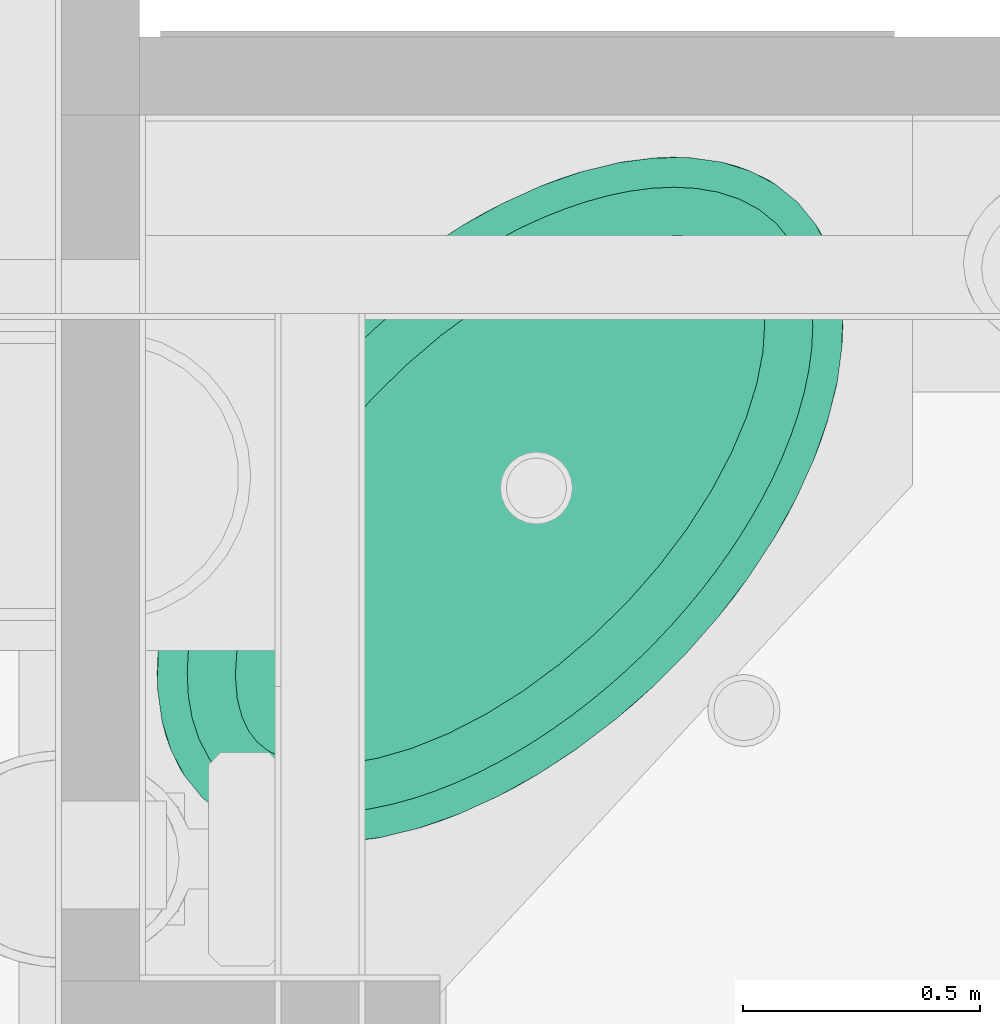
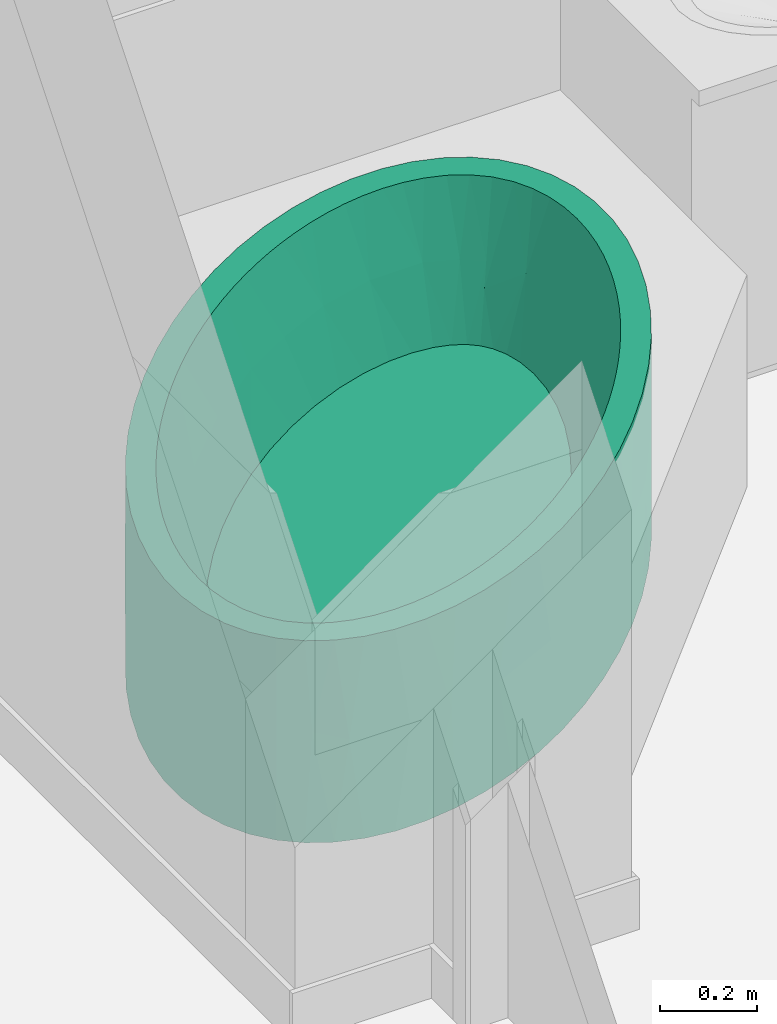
# One storey, part 51 of 81: 1 flow terminal.
"""IFC2X3 building model written with IfcOpenShell, lengths in feet."""

from ifc_helpers import new_model, entity, si_unit, converted_unit, derived_unit, direction, frame, origin, place, context, subcontext, project, spatial, faceted_brep, source, transform, mapped, material, type_object, type_shapes, element, save


model = new_model("IFC2X3")

# Units and contexts
model_context = context("Model", 3, precision=0.0001, world=origin(), true_north=direction((6.12303176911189e-17, 1.0)))
body_context = subcontext(model_context, "Body", "Model", "MODEL_VIEW")
ifc_project = project(units=[converted_unit("LENGTHUNIT", "FOOT", entity("IfcRatioMeasure", 0.3048), si_unit("LENGTHUNIT", "METRE"), dimensions=[1, 0, 0, 0, 0, 0, 0]), converted_unit("AREAUNIT", "SQUARE FOOT", entity("IfcRatioMeasure", 0.09290304), si_unit("AREAUNIT", "SQUARE_METRE"), dimensions=[2, 0, 0, 0, 0, 0, 0]), converted_unit("VOLUMEUNIT", "CUBIC FOOT", entity("IfcRatioMeasure", 0.028316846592), si_unit("VOLUMEUNIT", "CUBIC_METRE"), dimensions=[3, 0, 0, 0, 0, 0, 0]), converted_unit("PLANEANGLEUNIT", "DEGREE", entity("IfcRatioMeasure", 0.0174532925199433), si_unit("PLANEANGLEUNIT", "RADIAN"), dimensions=[0, 0, 0, 0, 0, 0, 0]), si_unit("MASSUNIT", "GRAM", prefix="KILO"), derived_unit("MASSDENSITYUNIT", [(si_unit("MASSUNIT", "GRAM", prefix="KILO"), 1), (si_unit("LENGTHUNIT", "METRE"), -3)]), derived_unit("MOMENTOFINERTIAUNIT", [(si_unit("LENGTHUNIT", "METRE"), 4)]), si_unit("TIMEUNIT", "SECOND"), si_unit("FREQUENCYUNIT", "HERTZ"), si_unit("THERMODYNAMICTEMPERATUREUNIT", "DEGREE_CELSIUS"), derived_unit("THERMALTRANSMITTANCEUNIT", [(si_unit("MASSUNIT", "GRAM", prefix="KILO"), 1), (si_unit("THERMODYNAMICTEMPERATUREUNIT", "KELVIN"), -1), (si_unit("TIMEUNIT", "SECOND"), -3)]), derived_unit("VOLUMETRICFLOWRATEUNIT", [(si_unit("LENGTHUNIT", "METRE"), 3), (si_unit("TIMEUNIT", "SECOND"), -1)]), si_unit("ELECTRICCURRENTUNIT", "AMPERE"), si_unit("ELECTRICVOLTAGEUNIT", "VOLT"), si_unit("POWERUNIT", "WATT"), si_unit("FORCEUNIT", "NEWTON"), si_unit("ILLUMINANCEUNIT", "LUX"), si_unit("LUMINOUSFLUXUNIT", "LUMEN"), si_unit("LUMINOUSINTENSITYUNIT", "CANDELA"), derived_unit("USERDEFINED", [(si_unit("MASSUNIT", "GRAM", prefix="KILO"), -1), (si_unit("LENGTHUNIT", "METRE"), -2), (si_unit("TIMEUNIT", "SECOND"), 3), (si_unit("LUMINOUSFLUXUNIT", "LUMEN"), 1)]), derived_unit("LINEARVELOCITYUNIT", [(si_unit("LENGTHUNIT", "METRE"), 1), (si_unit("TIMEUNIT", "SECOND"), -1)]), si_unit("PRESSUREUNIT", "PASCAL"), derived_unit("USERDEFINED", [(si_unit("LENGTHUNIT", "METRE"), -2), (si_unit("MASSUNIT", "GRAM", prefix="KILO"), 1), (si_unit("TIMEUNIT", "SECOND"), -2)]), derived_unit("LINEARFORCEUNIT", [(si_unit("MASSUNIT", "GRAM", prefix="KILO"), 1), (si_unit("LENGTHUNIT", "METRE"), 1), (si_unit("TIMEUNIT", "SECOND"), -2), (si_unit("LENGTHUNIT", "METRE"), -1)]), derived_unit("PLANARFORCEUNIT", [(si_unit("MASSUNIT", "GRAM", prefix="KILO"), 1), (si_unit("LENGTHUNIT", "METRE"), 1), (si_unit("TIMEUNIT", "SECOND"), -2), (si_unit("LENGTHUNIT", "METRE"), -2)])], contexts=[model_context])

# Site, building, storey
site_placement = place(None, origin())
site = spatial("IfcSite", under=ifc_project, at=site_placement, Name="Default", CompositionType="ELEMENT")
building_placement = place(site_placement, origin())
building = spatial("IfcBuilding", under=site, at=building_placement, CompositionType="ELEMENT")
storey_placement = place(building_placement, origin())
storey = spatial("IfcBuildingStorey", under=building, at=storey_placement, Name="First floor", CompositionType="ELEMENT", Elevation=0.0)

# Flow terminal
ifc_material = material(Name="Default New Material")
distribution_element_type = type_object("IfcDistributionElementType", Name="Plumbing Fixtures 7:Plumbing Fixtures 7", material=ifc_material)
shared_shape = source(origin(), body_context, "Body", "Brep", [
    faceted_brep([(0.55500130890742, 2.3566747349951, 1.66666666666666), (0.478171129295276, 2.64242724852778, 1.66666666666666), (0.325353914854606, 2.36659536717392, 1.66666666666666), (0.484494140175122, 2.2182767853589, 1.66666666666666), (0.631162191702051, 2.49222127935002, 1.66666666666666), (0.712476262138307, 2.62468866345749, 1.66666666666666), (0.656669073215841, 2.91467200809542, 1.66666666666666), (0.798436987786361, 2.75385819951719, 1.66666666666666), (0.888985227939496, 2.88010304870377, 1.66666666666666), (0.858433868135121, 3.17964800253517, 1.66666666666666), (0.983828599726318, 3.00329298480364, 1.66666666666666), (1.08256403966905, 3.12310538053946, 1.66666666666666), (1.08073699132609, 3.43377188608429, 1.66666666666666), (1.18518950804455, 3.23971485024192, 1.66666666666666), (1.29151107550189, 3.35301822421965, 1.66666666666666), (1.32057217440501, 3.67360706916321, 1.66666666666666), (1.40133845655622, 3.46285847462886, 1.66666666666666), (1.51464130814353, 3.56917788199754, 1.66666666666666), (1.63125388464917, 3.67177528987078, 1.66666666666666), (1.57469605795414, 3.89591019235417, 1.66666666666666), (1.75109747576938, 3.77052911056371, 1.66666666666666), (1.87425888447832, 3.86537833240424, 1.66666666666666), (1.83967205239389, 4.09767498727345, 1.66666666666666), (2.000481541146, 3.9559257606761, 1.66666666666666), (2.12965992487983, 4.04187701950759, 1.66666666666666), (2.11191681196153, 4.27617293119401, 1.66666666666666), (2.26212600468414, 4.12318575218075, 1.66666666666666), (2.39766086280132, 4.19935060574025, 1.66666666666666), (2.38774869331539, 4.42899014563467, 1.66666666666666), (2.53607463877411, 4.26986413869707, 1.66666666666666), (2.67733391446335, 4.33423331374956, 1.66666666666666), (2.66343754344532, 4.5540600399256, 1.66666666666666), (2.82141352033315, 4.39183822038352, 1.66666666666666), (2.93525514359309, 4.64969125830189, 1.66666666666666), (2.96827123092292, 4.44195119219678, 1.66666666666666), (3.11790773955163, 4.48363757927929, 1.66666666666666), (3.1995256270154, 4.71459055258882, 1.66666666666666), (3.26983301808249, 4.51563718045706, 1.66666666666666), (3.42389508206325, 4.53647856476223, 1.66666666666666), (3.45267518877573, 4.74788027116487, 1.66666666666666), (3.57919084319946, 4.54419349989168, 1.66666666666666), (3.69128041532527, 4.74911022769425, 1.66666666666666), (3.73430835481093, 4.53638746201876, 1.66666666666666), (3.91211458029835, 4.71826378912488, 1.66666666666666), (3.88694604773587, 4.51025185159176, 1.66666666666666), (4.11219128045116, 4.65575810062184, 1.66666666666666), (4.03483991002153, 4.46229461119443, 1.66666666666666), (4.17191834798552, 4.38998352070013, 1.66666666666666), (4.2888048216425, 4.56243844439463, 1.66666666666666), (4.29225289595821, 4.2922528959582, 1.66666666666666), (4.43956680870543, 4.43956680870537, 1.66666666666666), (4.56243844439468, 4.28880482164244, 1.66666666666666), (4.38996880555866, 4.17190740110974, 1.66666666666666), (4.65575810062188, 4.1121912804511, 1.66666666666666), (4.46229639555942, 4.03484242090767, 1.66666666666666), (4.51025575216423, 3.88694372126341, 1.66666666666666), (4.71826378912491, 3.91211458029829, 1.66666666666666), (4.53639235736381, 3.73430752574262, 1.66666666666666), (4.74911022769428, 3.6912804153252, 1.66666666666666), (4.54419523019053, 3.57918839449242, 1.66666666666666), (4.74788027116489, 3.45267518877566, 1.66666666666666), (4.53648396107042, 3.42389276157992, 1.66666666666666), (4.71459055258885, 3.19952562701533, 1.66666666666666), (4.5156442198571, 3.26983052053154, 1.66666666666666), (4.48361680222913, 3.11791628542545, 1.66666666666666), (4.64969125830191, 2.93525514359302, 1.66666666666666), (4.44191429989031, 2.96827598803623, 1.66666666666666), (4.39183044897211, 2.82141340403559, 1.66666666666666), (4.55406003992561, 2.66343754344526, 1.66666666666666), (4.33423016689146, 2.67732903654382, 1.66666666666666), (4.42899014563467, 2.38774869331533, 1.66666666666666), (4.26985338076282, 2.53607443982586, 1.66666666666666), (4.19933864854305, 2.39766166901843, 1.66666666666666), (4.27617293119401, 2.11191681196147, 1.66666666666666), (4.12318183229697, 2.26212271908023, 1.66666666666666), (4.04186936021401, 2.12965783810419, 1.66666666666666), (4.09767498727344, 1.83967205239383, 1.66666666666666), (3.95590725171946, 2.00048611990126, 1.66666666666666), (3.86537091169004, 1.87425725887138, 1.66666666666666), (3.89591019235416, 1.57469605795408, 1.66666666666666), (3.77053881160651, 1.75108038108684, 1.66666666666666), (3.67178190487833, 1.63124089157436, 1.66666666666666), (3.67360706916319, 1.32057217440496, 1.66666666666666), (3.56916730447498, 1.51464324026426, 1.66666666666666), (3.46284724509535, 1.40134055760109, 1.66666666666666), (3.35302019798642, 1.29149972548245, 1.66666666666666), (3.43377188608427, 1.08073699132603, 1.66666666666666), (3.23971700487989, 1.18517912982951, 1.66666666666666), (3.12309260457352, 1.08257083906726, 1.66666666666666), (3.17964800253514, 0.858433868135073, 1.66666666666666), (3.0032769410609, 0.983839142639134, 1.66666666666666), (2.88009923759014, 0.888976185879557, 1.66666666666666), (2.91467200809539, 0.656669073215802, 1.66666666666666), (2.75386462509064, 0.798419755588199, 1.66666666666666), (2.62468642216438, 0.712468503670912, 1.66666666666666), (2.64242724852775, 0.478171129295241, 1.66666666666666), (2.49221763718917, 0.631158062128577, 1.66666666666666), (2.35667490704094, 0.554989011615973, 1.66666666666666), (2.36659536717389, 0.325353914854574, 1.66666666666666), (2.21827703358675, 0.484483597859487, 1.66666666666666), (2.07707582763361, 0.420138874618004, 1.66666666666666), (2.09090651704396, 0.20028402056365, 1.66666666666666), (1.93308617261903, 0.362563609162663, 1.66666666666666), (1.8190889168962, 0.104652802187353, 1.66666666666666), (1.78590311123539, 0.312340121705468, 1.66666666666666), (1.6361883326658, 0.27064557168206, 1.66666666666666), (1.55481843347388, 0.0397535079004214, 1.66666666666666), (1.48419061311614, 0.23865097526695, 1.66666666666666), (1.33036493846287, 0.217857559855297, 1.66666666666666), (1.30166887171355, 0.00646378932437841, 1.66666666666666), (1.17550674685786, 0.210151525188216, 1.66666666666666), (1.06306364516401, 0.00523383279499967, 1.66666666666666), (1.02011564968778, 0.217948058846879, 1.66666666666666), (0.842229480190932, 0.0360802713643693, 1.66666666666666), (0.867029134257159, 0.244181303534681, 1.66666666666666), (0.642152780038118, 0.0985859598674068, 1.66666666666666), (0.719651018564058, 0.291988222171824, 1.66666666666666), (0.582373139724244, 0.364394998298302, 1.66666666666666), (0.46553923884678, 0.191905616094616, 1.66666666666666), (0.462091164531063, 0.462091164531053, 1.66666666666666), (0.31477725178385, 0.314777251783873, 1.66666666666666), (0.191905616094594, 0.465539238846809, 1.66666666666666), (0.364407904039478, 0.58238687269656, 1.66666666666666), (0.0985859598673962, 0.642152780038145, 1.66666666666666), (0.291984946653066, 0.719652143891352, 1.66666666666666), (0.24417706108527, 0.867033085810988, 1.66666666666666), (0.036080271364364, 0.842229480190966, 1.66666666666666), (0.217943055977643, 1.02011753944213, 1.66666666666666), (0.00523383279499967, 1.06306364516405, 1.66666666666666), (0.210149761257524, 1.17550696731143, 1.66666666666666), (0.00646378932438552, 1.30166887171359, 1.66666666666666), (0.217851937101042, 1.33036491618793, 1.66666666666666), (0.0397535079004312, 1.55481843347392, 1.66666666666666), (0.238643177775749, 1.4841887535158, 1.66666666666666), (0.270666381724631, 1.63618020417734, 1.66666666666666), (0.104652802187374, 1.81908891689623, 1.66666666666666), (0.31237668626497, 1.78589722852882, 1.66666666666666), (0.362571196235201, 1.93308587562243, 1.66666666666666), (0.200284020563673, 2.090906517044, 1.66666666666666), (0.420141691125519, 2.07707992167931, 1.66666666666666), (2.36659536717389, 0.325353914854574, 0.0), (2.09090651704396, 0.20028402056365, 0.0), (1.8190889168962, 0.104652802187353, 0.0), (1.55481843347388, 0.0397535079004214, 0.0), (1.30166887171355, 0.00646378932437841, 0.0), (1.06306364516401, 0.00523383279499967, 0.0), (0.842229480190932, 0.0360802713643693, 0.0), (0.642152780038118, 0.0985859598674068, 0.0), (0.46553923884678, 0.191905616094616, 0.0), (0.314777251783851, 0.314777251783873, 0.0), (0.191905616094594, 0.465539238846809, 0.0), (0.0985859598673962, 0.642152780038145, 0.0), (0.036080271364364, 0.842229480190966, 0.0), (0.00523383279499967, 1.06306364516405, 0.0), (0.00646378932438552, 1.30166887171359, 0.0), (0.0397535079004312, 1.55481843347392, 0.0), (0.104652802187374, 1.81908891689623, 0.0), (0.200284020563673, 2.090906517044, 0.0), (0.325353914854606, 2.36659536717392, 0.0), (0.478171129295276, 2.64242724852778, 0.0), (0.656669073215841, 2.91467200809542, 0.0), (0.858433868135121, 3.17964800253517, 0.0), (1.08073699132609, 3.43377188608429, 0.0), (1.32057217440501, 3.67360706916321, 0.0), (1.57469605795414, 3.89591019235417, 0.0), (1.83967205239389, 4.09767498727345, 0.0), (2.11191681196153, 4.27617293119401, 0.0), (2.38774869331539, 4.42899014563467, 0.0), (2.66343754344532, 4.5540600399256, 0.0), (2.93525514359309, 4.64969125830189, 0.0), (3.1995256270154, 4.71459055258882, 0.0), (3.45267518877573, 4.74788027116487, 0.0), (3.69128041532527, 4.74911022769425, 0.0), (3.91211458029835, 4.71826378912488, 0.0), (4.11219128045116, 4.65575810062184, 0.0), (4.2888048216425, 4.56243844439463, 0.0), (4.43956680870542, 4.43956680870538, 0.0), (4.56243844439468, 4.28880482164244, 0.0), (4.65575810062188, 4.1121912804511, 0.0), (4.71826378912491, 3.91211458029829, 0.0), (4.74911022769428, 3.6912804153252, 0.0), (4.74788027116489, 3.45267518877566, 0.0), (4.71459055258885, 3.19952562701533, 0.0), (4.64969125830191, 2.93525514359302, 0.0), (4.55406003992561, 2.66343754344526, 0.0), (4.42899014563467, 2.38774869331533, 0.0), (4.27617293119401, 2.11191681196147, 0.0), (4.09767498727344, 1.83967205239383, 0.0), (3.89591019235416, 1.57469605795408, 0.0), (3.67360706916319, 1.32057217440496, 0.0), (3.43377188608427, 1.08073699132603, 0.0), (3.17964800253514, 0.858433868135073, 0.0), (2.91467200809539, 0.656669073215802, 0.0), (2.64242724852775, 0.478171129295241, 0.0), (4.01492361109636, 4.69092549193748, 0.833333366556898), (0.0464261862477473, 1.58866264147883, 0.833333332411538), (3.57400275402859, 4.75251395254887, 0.833333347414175), (4.43956680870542, 4.43956680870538, 0.976973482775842), (4.24673189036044, 4.58874636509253, 0.914896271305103), (3.23318130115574, 4.72072709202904, 0.833333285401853), (2.80006182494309, 4.60564588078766, 0.833333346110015), (2.249616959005, 4.3559292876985, 0.833333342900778), (1.44605882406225, 3.78714408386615, 0.833333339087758), (1.87477515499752, 4.12228117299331, 0.833333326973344), (1.11102970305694, 3.46587031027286, 0.83333333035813), (0.75480668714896, 3.04829544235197, 0.83333333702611), (0.39841477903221, 2.50472711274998, 0.833333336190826), (0.148698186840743, 1.95428225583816, 0.833333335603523), (0.165597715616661, 0.507612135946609, 0.914896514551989), (0.00183010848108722, 1.18034141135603, 0.83333333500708), (0.314777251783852, 0.314777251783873, 0.976973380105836), (0.0634186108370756, 0.739420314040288, 0.833333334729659), (0.739420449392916, 0.0634185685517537, 0.833333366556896), (4.70791787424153, 3.16568141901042, 0.83333333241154), (1.18034130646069, 0.00183010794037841, 0.833333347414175), (0.507612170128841, 0.165597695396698, 0.914896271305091), (1.52116275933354, 0.0336169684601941, 0.833333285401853), (1.95428223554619, 0.148698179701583, 0.833333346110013), (2.50472710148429, 0.398414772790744, 0.833333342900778), (3.30828523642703, 0.967199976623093, 0.833333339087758), (2.87956890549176, 0.632062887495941, 0.833333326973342), (3.64331435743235, 1.28847375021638, 0.83333333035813), (3.99953737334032, 1.70604861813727, 0.833333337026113), (4.35592928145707, 2.24961694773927, 0.833333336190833), (4.60564587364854, 2.80006180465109, 0.833333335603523), (4.58874634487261, 4.24673192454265, 0.914896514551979), (4.75251395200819, 3.57400264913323, 0.833333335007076), (4.6909254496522, 4.01492374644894, 0.833333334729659), (2.01639922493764, 0.757845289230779, 0.499999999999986), (2.27333917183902, 0.88966588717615, 0.499999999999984), (2.53247455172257, 1.05082121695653, 0.499999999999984), (2.78807468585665, 1.23858819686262, 0.499999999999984), (3.03482504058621, 1.44949472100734, 0.499999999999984), (3.26766025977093, 1.67957470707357, 0.499999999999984), (3.48206056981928, 1.92429889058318, 0.499999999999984), (3.67393797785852, 2.17882769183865, 0.499999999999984), (3.83973334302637, 2.43772013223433, 0.499999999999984), (3.97662725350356, 2.69548540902, 0.499999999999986), (4.08245231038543, 2.9458789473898, 0.499999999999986), (4.15631490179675, 3.18304618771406, 0.499999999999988), (4.19843022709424, 3.40022277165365, 0.499999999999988), (4.21083593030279, 3.59163233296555, 0.499999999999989), (4.1976775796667, 3.7523077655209, 0.499999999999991), (4.16491062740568, 3.88010328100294, 0.499999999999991), (4.11867781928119, 3.9773645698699, 0.499999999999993), (4.06184857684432, 4.05115442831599, 0.499999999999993), (3.99116246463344, 4.1099006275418, 0.499999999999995), (3.89826797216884, 4.15801760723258, 0.499999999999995), (3.77593884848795, 4.19338551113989, 0.499999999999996), (3.62070460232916, 4.21027805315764, 0.499999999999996), (3.43409339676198, 4.20245888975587, 0.499999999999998), (3.22081120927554, 4.1655259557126, 0.499999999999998), (2.98663193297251, 4.09705814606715, 0.5), (2.73794353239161, 3.99649747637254, 0.5), (2.48100358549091, 3.86467687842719, 0.500000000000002), (2.22186820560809, 3.70352154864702, 0.500000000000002), (1.96626807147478, 3.51575456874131, 0.500000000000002), (1.71951771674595, 3.30484804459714, 0.500000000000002), (1.48668249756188, 3.07476805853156, 0.500000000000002), (1.27228218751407, 2.83004387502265, 0.500000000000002), (1.08040477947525, 2.57551507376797, 0.500000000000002), (0.914609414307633, 2.31662263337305, 0.500000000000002), (0.777715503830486, 2.05885735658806, 0.5), (0.671890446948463, 1.80846381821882, 0.5), (0.598027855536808, 1.57129657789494, 0.499999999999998), (0.555912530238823, 1.35411999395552, 0.499999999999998), (0.543506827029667, 1.1627104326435, 0.499999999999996), (0.55666517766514, 1.00203500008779, 0.499999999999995), (0.589432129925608, 0.874239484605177, 0.499999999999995), (0.635664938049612, 0.776978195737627, 0.499999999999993), (0.692494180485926, 0.703188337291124, 0.499999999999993), (0.763180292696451, 0.644442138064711, 0.499999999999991), (0.85607478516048, 0.596325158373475, 0.499999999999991), (0.978403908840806, 0.560957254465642, 0.499999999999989), (1.1336381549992, 0.54406471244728, 0.499999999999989), (1.32024936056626, 0.551883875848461, 0.499999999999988), (1.53353154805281, 0.588816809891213, 0.499999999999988), (1.76771082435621, 0.657284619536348, 0.499999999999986), (1.79565710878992, 0.489567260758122, 1.08710536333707), (4.33629035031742, 3.21966450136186, 1.08418170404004), (4.20364356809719, 2.80159739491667, 1.07764055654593), (1.37581787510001, 0.388918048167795, 1.08951883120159), (4.37798165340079, 3.64303828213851, 1.0896375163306), (4.33396367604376, 3.90773336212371, 1.09157422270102), (4.13991118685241, 4.1328402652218, 0.895274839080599), (2.20004668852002, 0.663513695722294, 1.07667037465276), (2.58651283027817, 0.886036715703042, 1.08460324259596), (4.01150687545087, 2.40034552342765, 1.08638487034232), (3.77620388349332, 2.02844404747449, 1.0962868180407), (3.48513655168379, 1.67380296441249, 1.07582440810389), (0.963425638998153, 0.391063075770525, 1.09425288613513), (0.614432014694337, 0.621502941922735, 0.895274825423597), (3.05986873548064, 1.25101681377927, 1.07582573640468), (0.721735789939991, 0.474074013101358, 1.08710912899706), (0.577292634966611, 0.582639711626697, 1.08333352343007), (4.17705077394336, 4.17170370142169, 1.08333352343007), (2.958680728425, 4.2647671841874, 1.08708183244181), (0.418006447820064, 1.53441002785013, 1.08414310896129), (0.550750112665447, 1.95284815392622, 1.07761136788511), (3.37834295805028, 4.36540353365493, 1.08952562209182), (0.37633586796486, 1.11149165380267, 1.08969873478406), (0.420423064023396, 0.846539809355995, 1.09150422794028), (2.55429625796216, 4.09082979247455, 1.0766713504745), (2.16783273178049, 3.86830804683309, 1.08460302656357), (0.74283438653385, 2.35399422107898, 1.08638508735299), (0.978143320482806, 2.7259003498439, 1.0962780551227), (1.26921324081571, 3.08054877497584, 1.07582699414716), (3.79078087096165, 4.36328310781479, 1.09417861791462), (1.69448334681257, 3.50333318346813, 1.07582310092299), (4.03263531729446, 4.2802455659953, 1.08708140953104)], [[[0, 1, 2]], [[3, 0, 2]], [[4, 1, 0]], [[4, 5, 1]], [[1, 5, 6]], [[6, 5, 7]], [[7, 8, 6]], [[9, 6, 8]], [[8, 10, 9]], [[10, 11, 9]], [[11, 12, 9]], [[11, 13, 12]], [[13, 14, 12]], [[12, 14, 15]], [[16, 15, 14]], [[17, 15, 16]], [[17, 18, 15]], [[19, 15, 18]], [[18, 20, 19]], [[20, 21, 19]], [[21, 22, 19]], [[22, 21, 23]], [[24, 22, 23]], [[24, 25, 22]], [[25, 24, 26]], [[27, 25, 26]], [[27, 28, 25]], [[29, 28, 27]], [[29, 30, 28]], [[30, 31, 28]], [[32, 31, 30]], [[33, 31, 32]], [[34, 33, 32]], [[33, 34, 35]], [[33, 35, 36]], [[37, 36, 35]], [[38, 36, 37]], [[39, 36, 38]], [[39, 38, 40]], [[39, 40, 41]], [[42, 41, 40]], [[43, 41, 42]], [[42, 44, 43]], [[44, 45, 43]], [[46, 45, 44]], [[46, 47, 45]], [[47, 48, 45]], [[48, 47, 49]], [[48, 49, 50]], [[50, 49, 51]], [[52, 51, 49]], [[51, 52, 53]], [[52, 54, 53]], [[55, 53, 54]], [[55, 56, 53]], [[55, 57, 56]], [[56, 57, 58]], [[57, 59, 58]], [[59, 60, 58]], [[60, 59, 61]], [[60, 61, 62]], [[61, 63, 62]], [[64, 62, 63]], [[65, 62, 64]], [[65, 64, 66]], [[66, 67, 65]], [[65, 67, 68]], [[68, 67, 69]], [[70, 68, 69]], [[70, 69, 71]], [[71, 72, 70]], [[72, 73, 70]], [[72, 74, 73]], [[74, 75, 73]], [[75, 76, 73]], [[77, 76, 75]], [[77, 78, 76]], [[79, 76, 78]], [[80, 79, 78]], [[80, 81, 79]], [[81, 82, 79]], [[81, 83, 82]], [[84, 82, 83]], [[82, 84, 85]], [[85, 86, 82]], [[87, 86, 85]], [[87, 88, 86]], [[86, 88, 89]], [[88, 90, 89]], [[91, 89, 90]], [[89, 91, 92]], [[91, 93, 92]], [[93, 94, 92]], [[94, 95, 92]], [[96, 95, 94]], [[96, 97, 95]], [[95, 97, 98]], [[98, 97, 99]], [[99, 100, 98]], [[98, 100, 101]], [[100, 102, 101]], [[101, 102, 103]], [[103, 102, 104]], [[103, 104, 105]], [[103, 105, 106]], [[106, 105, 107]], [[107, 108, 106]], [[106, 108, 109]], [[110, 109, 108]], [[111, 109, 110]], [[112, 111, 110]], [[112, 113, 111]], [[113, 112, 114]], [[115, 113, 114]], [[115, 114, 116]], [[115, 116, 117]], [[117, 118, 115]], [[118, 117, 119]], [[119, 120, 118]], [[121, 120, 119]], [[119, 122, 121]], [[123, 121, 122]], [[122, 124, 123]], [[123, 124, 125]], [[126, 123, 125]], [[125, 127, 126]], [[128, 126, 127]], [[128, 127, 129]], [[129, 130, 128]], [[130, 129, 131]], [[132, 130, 131]], [[133, 132, 131]], [[134, 132, 133]], [[132, 134, 135]], [[135, 134, 136]], [[136, 137, 135]], [[137, 138, 135]], [[139, 138, 137]], [[3, 2, 139]], [[139, 2, 138]], [[140, 141, 142, 143, 144, 145, 146, 147, 148, 149, 150, 151, 152, 153, 154, 155, 156, 157, 158, 159, 160, 161, 162, 163, 164, 165, 166, 167, 168, 169, 170, 171, 172, 173, 174, 175, 176, 177, 178, 179, 180, 181, 182, 183, 184, 185, 186, 187, 188, 189, 190, 191, 192, 193]], [[43, 45, 194]], [[155, 195, 156]], [[173, 194, 174]], [[194, 196, 41]], [[48, 197, 198]], [[41, 196, 39]], [[43, 194, 41]], [[197, 175, 198]], [[199, 39, 196]], [[198, 194, 45]], [[199, 36, 39]], [[172, 196, 194]], [[31, 33, 200]], [[199, 200, 33]], [[25, 28, 201]], [[28, 31, 200]], [[202, 15, 19]], [[170, 169, 199]], [[203, 22, 25]], [[19, 203, 202]], [[168, 167, 201]], [[28, 200, 201]], [[204, 12, 15]], [[25, 201, 203]], [[1, 6, 205, 206]], [[197, 176, 175]], [[197, 48, 50]], [[172, 194, 173]], [[138, 2, 206, 207]], [[208, 121, 123]], [[126, 128, 209]], [[196, 171, 199]], [[195, 132, 135]], [[149, 210, 150]], [[120, 121, 210]], [[196, 172, 171]], [[174, 198, 175]], [[199, 169, 200]], [[168, 200, 169]], [[211, 208, 123]], [[174, 194, 198]], [[165, 203, 166]], [[168, 201, 200]], [[167, 166, 201]], [[201, 166, 203]], [[162, 204, 163]], [[202, 203, 164]], [[170, 199, 171]], [[163, 202, 164]], [[204, 15, 202]], [[165, 164, 203]], [[162, 161, 204]], [[205, 6, 9]], [[9, 204, 205]], [[206, 2, 1]], [[160, 159, 206, 205]], [[207, 135, 138]], [[158, 157, 207, 206]], [[155, 154, 195]], [[153, 152, 211]], [[208, 211, 151]], [[210, 208, 150]], [[209, 128, 130]], [[130, 195, 209]], [[211, 123, 126]], [[33, 36, 199]], [[19, 22, 203]], [[9, 12, 204]], [[208, 210, 121]], [[130, 132, 195]], [[211, 126, 209]], [[195, 135, 207]], [[204, 161, 205]], [[205, 161, 160]], [[206, 159, 158]], [[156, 207, 157]], [[156, 195, 207]], [[209, 195, 154]], [[153, 209, 154]], [[153, 211, 209]], [[152, 151, 211]], [[48, 198, 45]], [[150, 208, 151]], [[204, 202, 163]], [[113, 115, 212]], [[182, 213, 183]], [[146, 212, 147]], [[212, 214, 111]], [[118, 210, 215]], [[111, 214, 109]], [[113, 212, 111]], [[210, 148, 215]], [[216, 109, 214]], [[215, 212, 115]], [[216, 106, 109]], [[145, 214, 212]], [[101, 103, 217]], [[216, 217, 103]], [[95, 98, 218]], [[98, 101, 217]], [[219, 86, 89]], [[143, 142, 216]], [[220, 92, 95]], [[89, 220, 219]], [[141, 140, 218]], [[98, 217, 218]], [[221, 82, 86]], [[95, 218, 220]], [[73, 76, 222, 223]], [[210, 149, 148]], [[210, 118, 120]], [[145, 212, 146]], [[68, 70, 223, 224]], [[225, 51, 53]], [[56, 58, 226]], [[214, 144, 216]], [[213, 62, 65]], [[176, 197, 177]], [[50, 51, 197]], [[214, 145, 144]], [[147, 215, 148]], [[216, 142, 217]], [[141, 217, 142]], [[227, 225, 53]], [[147, 212, 215]], [[192, 220, 193]], [[141, 218, 217]], [[140, 193, 218]], [[218, 193, 220]], [[189, 221, 190]], [[219, 220, 191]], [[143, 216, 144]], [[190, 219, 191]], [[221, 86, 219]], [[192, 191, 220]], [[189, 188, 221]], [[222, 76, 79]], [[79, 221, 222]], [[223, 70, 73]], [[187, 186, 223, 222]], [[224, 65, 68]], [[185, 184, 224, 223]], [[182, 181, 213]], [[180, 179, 227]], [[225, 227, 178]], [[197, 225, 177]], [[226, 58, 60]], [[60, 213, 226]], [[227, 53, 56]], [[103, 106, 216]], [[89, 92, 220]], [[79, 82, 221]], [[225, 197, 51]], [[60, 62, 213]], [[227, 56, 226]], [[213, 65, 224]], [[221, 188, 222]], [[222, 188, 187]], [[223, 186, 185]], [[183, 224, 184]], [[183, 213, 224]], [[226, 213, 181]], [[180, 226, 181]], [[180, 227, 226]], [[179, 178, 227]], [[118, 215, 115]], [[177, 225, 178]], [[221, 219, 190]], [[228, 229, 230, 231, 232, 233, 234, 235, 236, 237, 238, 239, 240, 241, 242, 243, 244, 245, 246, 247, 248, 249, 250, 251, 252, 253, 254, 255, 256, 257, 258, 259, 260, 261, 262, 263, 264, 265, 266, 267, 268, 269, 270, 271, 272, 273, 274, 275, 276, 277]], [[105, 104, 278]], [[66, 64, 279]], [[280, 69, 67]], [[110, 108, 281]], [[61, 59, 282]], [[280, 67, 66]], [[283, 52, 284]], [[285, 229, 228]], [[280, 66, 279]], [[96, 94, 286]], [[69, 280, 71]], [[74, 287, 75]], [[71, 280, 287]], [[283, 54, 52]], [[288, 289, 80]], [[81, 80, 289]], [[289, 84, 83]], [[72, 287, 74]], [[116, 114, 290]], [[75, 287, 288]], [[271, 270, 291]], [[284, 244, 283]], [[75, 288, 77]], [[55, 283, 282]], [[78, 288, 80]], [[72, 71, 287]], [[234, 289, 288]], [[289, 85, 84]], [[55, 282, 57]], [[289, 234, 233]], [[61, 282, 279]], [[234, 288, 235]], [[88, 292, 90]], [[282, 59, 57]], [[77, 288, 78]], [[242, 282, 283]], [[242, 283, 243]], [[244, 284, 245]], [[282, 240, 279]], [[283, 55, 54]], [[237, 280, 238]], [[287, 236, 235]], [[239, 279, 240]], [[235, 288, 287]], [[81, 289, 83]], [[276, 275, 281]], [[229, 286, 230]], [[282, 241, 240]], [[287, 280, 237]], [[238, 280, 279]], [[239, 238, 279]], [[231, 230, 286]], [[279, 64, 63]], [[228, 277, 278]], [[236, 287, 237]], [[63, 61, 279]], [[292, 232, 231]], [[241, 282, 242]], [[292, 87, 85]], [[100, 99, 285]], [[100, 278, 102]], [[285, 278, 100]], [[94, 93, 286]], [[286, 285, 96]], [[97, 96, 285]], [[104, 102, 278]], [[114, 112, 290]], [[290, 293, 116]], [[117, 116, 293]], [[281, 105, 278]], [[112, 110, 290]], [[107, 281, 108]], [[110, 281, 290]], [[281, 107, 105]], [[119, 117, 294]], [[292, 88, 87]], [[292, 91, 90]], [[93, 91, 286]], [[292, 289, 233]], [[292, 85, 289]], [[271, 293, 272]], [[292, 233, 232]], [[292, 231, 286]], [[243, 283, 244]], [[292, 286, 91]], [[52, 49, 295]], [[286, 229, 285]], [[281, 274, 290]], [[290, 272, 293]], [[290, 273, 272]], [[285, 99, 97]], [[277, 276, 278]], [[278, 276, 281]], [[278, 285, 228]], [[293, 294, 117]], [[275, 274, 281]], [[271, 294, 293]], [[273, 290, 274]], [[35, 34, 296]], [[136, 134, 297]], [[298, 139, 137]], [[40, 38, 299]], [[131, 129, 300]], [[298, 137, 136]], [[301, 122, 291]], [[302, 254, 253]], [[298, 136, 297]], [[26, 24, 303]], [[139, 298, 3]], [[4, 304, 5]], [[3, 298, 304]], [[301, 124, 122]], [[305, 306, 10]], [[11, 10, 306]], [[306, 14, 13]], [[0, 304, 4]], [[46, 44, 307]], [[5, 304, 305]], [[246, 245, 284]], [[291, 269, 301]], [[5, 305, 7]], [[125, 301, 300]], [[8, 305, 10]], [[0, 3, 304]], [[259, 306, 305]], [[16, 14, 308]], [[125, 300, 127]], [[306, 259, 258]], [[131, 300, 297]], [[259, 305, 260]], [[18, 308, 20]], [[300, 129, 127]], [[7, 305, 8]], [[267, 300, 301]], [[267, 301, 268]], [[269, 291, 270]], [[300, 265, 297]], [[301, 125, 124]], [[262, 298, 263]], [[304, 261, 260]], [[264, 297, 265]], [[260, 305, 304]], [[11, 306, 13]], [[251, 250, 299]], [[254, 303, 255]], [[300, 266, 265]], [[304, 298, 262]], [[263, 298, 297]], [[264, 263, 297]], [[256, 255, 303]], [[297, 134, 133]], [[253, 252, 296]], [[261, 304, 262]], [[133, 131, 297]], [[308, 257, 256]], [[266, 300, 267]], [[306, 258, 257]], [[30, 29, 302]], [[30, 296, 32]], [[302, 296, 30]], [[24, 23, 303]], [[303, 302, 26]], [[27, 26, 302]], [[34, 32, 296]], [[44, 42, 307]], [[307, 309, 46]], [[47, 46, 309]], [[299, 35, 296]], [[42, 40, 307]], [[37, 299, 38]], [[40, 299, 307]], [[299, 37, 35]], [[49, 47, 295]], [[308, 18, 17]], [[308, 21, 20]], [[23, 21, 303]], [[308, 17, 16]], [[306, 308, 14]], [[246, 309, 247]], [[306, 257, 308]], [[308, 256, 303]], [[268, 301, 269]], [[308, 303, 21]], [[122, 119, 294]], [[303, 254, 302]], [[299, 249, 307]], [[307, 247, 309]], [[307, 248, 247]], [[302, 29, 27]], [[252, 251, 296]], [[296, 251, 299]], [[296, 302, 253]], [[309, 295, 47]], [[250, 249, 299]], [[246, 295, 309]], [[248, 307, 249]], [[271, 291, 294]], [[52, 295, 284]], [[246, 284, 295]], [[122, 294, 291]]]),
])
type_shapes(distribution_element_type, [shared_shape])
flow_terminal_placement = place(storey_placement, frame((-5.65024887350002, 42.4564790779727, 10.7916666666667)))
element("IfcFlowTerminal", 1, at=flow_terminal_placement, inside=storey, type_object=distribution_element_type, material=ifc_material, Name="Plumbing Fixtures 7:Plumbing Fixtures 7", ObjectType="Plumbing Fixtures 7:Plumbing Fixtures 7", context=body_context, shape_type="MappedRepresentation", body=[
    mapped(shared_shape, transform((0.0, 0.0, 0.0), scale=1.0)),
])

save(model, "model.ifc")
